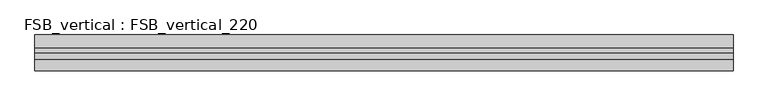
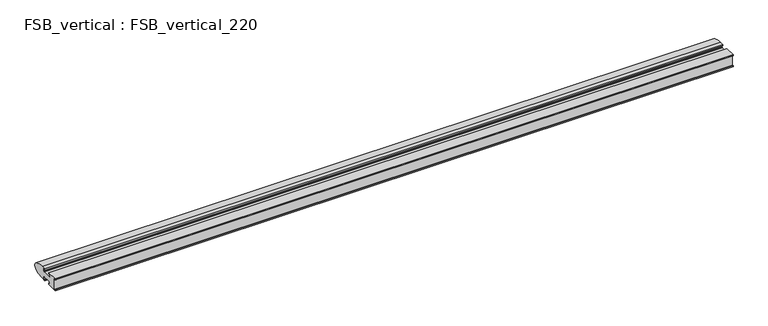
"""IFC4 building model written with IfcOpenShell, lengths in millimetres: proxy geometry, FSB_vertical : FSB_vertical_220."""

from ifc_helpers import new_model, si_unit, point, frame, origin, place, context, project, spatial, circle_curve, ellipse_curve, trimmed, source, transform, mapped, element, save
from ifc_brep_helpers import plane_surface, cylinder_surface, extruded_surface, advanced_brep


def fsb_vertical_fsb_vertical_220_ec3d4603(model_context):
    return source(origin(), model_context, "Body", "AdvancedBrep", [
        advanced_brep(
        [(-1500.0, 35.515, 2027.4994269), (-1500.0, 35.515, 1972.4999025), (-1500.0, 14.55, 1972.4999025), (-1500.0, 14.55, 1977.6), (-1500.0, 16.55, 1977.6), (-1500.0, 16.55, 1975.4999025), (-1500.0, 17.55, 1974.4999025), (-1500.0, 22.175, 1974.4999025), (-1500.0, 22.175, 1985.95), (-1500.0, 18.5225, 1985.95), (-1500.0, 18.5225, 1989.0), (-1500.0, -18.5225, 1989.0), (-1500.0, -18.5225, 1985.95), (-1500.0, -22.175, 1985.95), (-1500.0, -22.175, 1974.6999025), (-1500.0, -17.55, 1974.6999025), (-1500.0, -16.55, 1975.6999025), (-1500.0, -16.55, 1977.6), (-1500.0, -14.55, 1977.6), (-1500.0, -14.55, 1972.4999025), (-1500.0, -63.0727525, 1972.4999025), (-1500.0, -63.0727525, 1975.9999025), (-1500.0, -62.0727525, 1976.9999025), (-1500.0, -60.5727525, 1976.9999025), (-1500.0, -60.5727525, 1974.9999025), (-1500.0, -57.5727525, 1974.9999025), (-1500.0, -57.5727525, 2025.0000975), (-1500.0, -60.5727525, 2025.0000975), (-1500.0, -60.5727525, 2023.0000975), (-1500.0, -62.0727525, 2023.0000975), (-1500.0, -63.0727525, 2024.0000975), (-1500.0, -63.0727525, 2027.5000975), (-1500.0, -14.55, 2027.5000975), (-1500.0, -14.55, 2022.4), (-1500.0, -16.55, 2022.4), (-1500.0, -16.55, 2024.3000975), (-1500.0, -17.55, 2025.3000975), (-1500.0, -22.175, 2025.3000975), (-1500.0, -22.175, 2014.05), (-1500.0, -18.5225, 2014.05), (-1500.0, -18.5225, 2011.0), (-1500.0, 18.5225, 2011.0), (-1500.0, 18.5225, 2014.05), (-1500.0, 22.175, 2014.05), (-1500.0, 22.175, 2025.5000975), (-1500.0, 17.55, 2025.5000975), (-1500.0, 16.55, 2024.5000975), (-1500.0, 16.55, 2022.4), (-1500.0, 14.55, 2022.4), (-1500.0, 14.55, 2027.4994269), (1500.0, 35.515, 2027.4994269), (1500.0, 14.55, 2027.4994269), (1500.0, 14.55, 2022.4), (1500.0, 16.55, 2022.4), (1500.0, 16.55, 2024.5000975), (1500.0, 17.55, 2025.5000975), (1500.0, 22.175, 2025.5000975), (1500.0, 22.175, 2014.05), (1500.0, 18.5225, 2014.05), (1500.0, 18.5225, 2011.0), (1500.0, -18.5225, 2011.0), (1500.0, -18.5225, 2014.05), (1500.0, -22.175, 2014.05), (1500.0, -22.175, 2025.3000975), (1500.0, -17.55, 2025.3000975), (1500.0, -16.55, 2024.3000975), (1500.0, -16.55, 2022.4), (1500.0, -14.55, 2022.4), (1500.0, -14.55, 2027.5000975), (1500.0, -63.0727525, 2027.5000975), (1500.0, -63.0727525, 2024.0000975), (1500.0, -62.0727525, 2023.0000975), (1500.0, -60.5727525, 2023.0000975), (1500.0, -60.5727525, 2025.0000975), (1500.0, -57.5727525, 2025.0000975), (1500.0, -57.5727525, 1974.9999025), (1500.0, -60.5727525, 1974.9999025), (1500.0, -60.5727525, 1976.9999025), (1500.0, -62.0727525, 1976.9999025), (1500.0, -63.0727525, 1975.9999025), (1500.0, -63.0727525, 1972.4999025), (1500.0, -14.55, 1972.4999025), (1500.0, -14.55, 1977.6), (1500.0, -16.55, 1977.6), (1500.0, -16.55, 1975.6999025), (1500.0, -17.55, 1974.6999025), (1500.0, -22.175, 1974.6999025), (1500.0, -22.175, 1985.95), (1500.0, -18.5225, 1985.95), (1500.0, -18.5225, 1989.0), (1500.0, 18.5225, 1989.0), (1500.0, 18.5225, 1985.95), (1500.0, 22.175, 1985.95), (1500.0, 22.175, 1974.4999025), (1500.0, 17.55, 1974.4999025), (1500.0, 16.55, 1975.4999025), (1500.0, 16.55, 1977.6), (1500.0, 14.55, 1977.6), (1500.0, 14.55, 1972.4999025), (1500.0, 35.515, 1972.4999025)],
        [
            (0, 1, ellipse_curve(frame((-1500.0, 35.515, 1999.9996647), z_axis=(-1.0, 0.0, 0.0), x_axis=(0.0, 1.0, 0.0)), 56.4122475, 27.4997622)),
            (1, 2),
            (2, 3),
            (3, 4),
            (4, 5),
            (5, 6),
            (6, 7),
            (7, 8),
            (8, 9),
            (9, 10),
            (10, 11),
            (11, 12),
            (12, 13),
            (13, 14),
            (14, 15),
            (15, 16),
            (16, 17),
            (17, 18),
            (18, 19),
            (19, 20),
            (20, 21),
            (21, 22, circle_curve(frame((-1500.0, -62.0727525, 1975.9999025), z_axis=(-1.0, 0.0, 0.0), x_axis=(0.0, 0.0, 1.0)), 1.0)),
            (22, 23),
            (23, 24),
            (24, 25),
            (25, 26),
            (26, 27),
            (27, 28),
            (28, 29),
            (29, 30, circle_curve(frame((-1500.0, -62.0727525, 2024.0000975), z_axis=(-1.0, 0.0, 0.0), x_axis=(0.0, -1.0, 0.0)), 1.0)),
            (30, 31),
            (31, 32),
            (32, 33),
            (33, 34),
            (34, 35),
            (35, 36),
            (36, 37),
            (37, 38),
            (38, 39),
            (39, 40),
            (40, 41),
            (41, 42),
            (42, 43),
            (43, 44),
            (44, 45),
            (45, 46),
            (46, 47),
            (47, 48),
            (48, 49),
            (49, 0),
            (50, 51),
            (51, 52),
            (52, 53),
            (53, 54),
            (54, 55),
            (55, 56),
            (56, 57),
            (57, 58),
            (58, 59),
            (59, 60),
            (60, 61),
            (61, 62),
            (62, 63),
            (63, 64),
            (64, 65),
            (65, 66),
            (66, 67),
            (67, 68),
            (68, 69),
            (69, 70),
            (70, 71, circle_curve(frame((1500.0, -62.0727525, 2024.0000975), z_axis=(1.0, 0.0, 0.0), x_axis=(0.0, -1.0, 0.0)), 1.0)),
            (71, 72),
            (72, 73),
            (73, 74),
            (74, 75),
            (75, 76),
            (76, 77),
            (77, 78),
            (78, 79, circle_curve(frame((1500.0, -62.0727525, 1975.9999025), z_axis=(1.0, 0.0, 0.0), x_axis=(0.0, 0.0, 1.0)), 1.0)),
            (79, 80),
            (80, 81),
            (81, 82),
            (82, 83),
            (83, 84),
            (84, 85),
            (85, 86),
            (86, 87),
            (87, 88),
            (88, 89),
            (89, 90),
            (90, 91),
            (91, 92),
            (92, 93),
            (93, 94),
            (94, 95),
            (95, 96),
            (96, 97),
            (97, 98),
            (98, 99),
            (99, 50, ellipse_curve(frame((1500.0, 35.515, 1999.9996647), z_axis=(1.0, 0.0, 0.0), x_axis=(0.0, 1.0, 0.0)), 56.4122475, 27.4997622)),
            (0, 50),
            (99, 1),
            (98, 2),
            (97, 3),
            (96, 4),
            (95, 5),
            (94, 6),
            (93, 7),
            (92, 8),
            (91, 9),
            (90, 10),
            (89, 11),
            (88, 12),
            (87, 13),
            (86, 14),
            (85, 15),
            (84, 16),
            (83, 17),
            (82, 18),
            (81, 19),
            (80, 20),
            (79, 21),
            (78, 22),
            (77, 23),
            (76, 24),
            (75, 25),
            (74, 26),
            (73, 27),
            (72, 28),
            (71, 29),
            (70, 30),
            (69, 31),
            (68, 32),
            (67, 33),
            (66, 34),
            (65, 35),
            (64, 36),
            (63, 37),
            (62, 38),
            (61, 39),
            (60, 40),
            (59, 41),
            (58, 42),
            (57, 43),
            (56, 44),
            (55, 45),
            (54, 46),
            (53, 47),
            (52, 48),
            (51, 49),
        ],
        [
            plane_surface(frame((-1500.0, 0.0, 2000.0), z_axis=(-1.0, 0.0, 0.0), x_axis=(0.0, -1.0, 0.0))),
            plane_surface(frame((1500.0, 0.0, 2000.0), z_axis=(1.0, 0.0, 0.0), x_axis=(0.0, -1.0, 0.0))),
            extruded_surface(trimmed(ellipse_curve(frame((1500.0, 35.515, 1999.9996647), z_axis=(-1.0, 0.0, 0.0), x_axis=(0.0, 1.0, 0.0)), 56.4122475, 27.4997622), [point((1500.0, 35.515, 2027.4994269))], [point((1500.0, 35.515, 1972.4999025))], True, "CARTESIAN"), (-3000.0, 0.0, 0.0), 3000.0),
            plane_surface(frame((-1500.0, 35.515, 1972.4999025), z_axis=(0.0, 0.0, -1.0), x_axis=(1.0, 0.0, 0.0))),
            plane_surface(frame((-1500.0, 14.55, 1972.4999025), z_axis=(0.0, -1.0, 0.0), x_axis=(1.0, 0.0, 0.0))),
            plane_surface(frame((-1500.0, 14.55, 1977.6), z_axis=(0.0, 0.0, 1.0), x_axis=(1.0, 0.0, 0.0))),
            plane_surface(frame((-1500.0, 16.55, 1977.6), z_axis=(0.0, 1.0, 0.0), x_axis=(1.0, 0.0, 0.0))),
            plane_surface(frame((-1500.0, 16.55, 1975.4999025), z_axis=(0.0, 0.707106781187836, 0.707106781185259), x_axis=(1.0, 0.0, 0.0))),
            plane_surface(frame((-1500.0, 17.55, 1974.4999025), z_axis=(0.0, 0.0, 1.0), x_axis=(1.0, 0.0, 0.0))),
            plane_surface(frame((-1500.0, 22.175, 1974.4999025), z_axis=(0.0, -1.0, 0.0), x_axis=(1.0, 0.0, 0.0))),
            plane_surface(frame((-1500.0, 22.175, 1985.95), z_axis=(0.0, 0.0, -1.0), x_axis=(1.0, 0.0, 0.0))),
            plane_surface(frame((-1500.0, 18.5225, 1985.95), z_axis=(0.0, -1.0, 0.0), x_axis=(1.0, 0.0, 0.0))),
            plane_surface(frame((-1500.0, 18.5225, 1989.0), z_axis=(0.0, 0.0, -1.0), x_axis=(1.0, 0.0, 0.0))),
            plane_surface(frame((-1500.0, -18.5225, 1989.0), z_axis=(0.0, 1.0, 0.0), x_axis=(1.0, 0.0, 0.0))),
            plane_surface(frame((-1500.0, -18.5225, 1985.95), z_axis=(0.0, 0.0, -1.0), x_axis=(1.0, 0.0, 0.0))),
            plane_surface(frame((-1500.0, -22.175, 1985.95), z_axis=(0.0, 1.0, 0.0), x_axis=(1.0, 0.0, 0.0))),
            plane_surface(frame((-1500.0, -22.175, 1974.6999025), z_axis=(0.0, 0.0, 1.0), x_axis=(1.0, 0.0, 0.0))),
            plane_surface(frame((-1500.0, -17.55, 1974.6999025), z_axis=(0.0, -0.7071067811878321, 0.7071067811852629), x_axis=(1.0, 0.0, 0.0))),
            plane_surface(frame((-1500.0, -16.55, 1975.6999025), z_axis=(0.0, -1.0, 0.0), x_axis=(1.0, 0.0, 0.0))),
            plane_surface(frame((-1500.0, -16.55, 1977.6), z_axis=(0.0, 0.0, 1.0), x_axis=(1.0, 0.0, 0.0))),
            plane_surface(frame((-1500.0, -14.55, 1977.6), z_axis=(0.0, 1.0, 0.0), x_axis=(1.0, 0.0, 0.0))),
            plane_surface(frame((-1500.0, -14.55, 1972.4999025), z_axis=(0.0, 0.0, -1.0), x_axis=(1.0, 0.0, 0.0))),
            plane_surface(frame((-1500.0, -63.0727525, 1972.4999025), z_axis=(0.0, -1.0, 0.0), x_axis=(1.0, 0.0, 0.0))),
            cylinder_surface(frame((-1500.0, -62.0727525, 1975.9999025), z_axis=(-1.0, 0.0, 0.0), x_axis=(0.0, 0.0, 1.0)), 1.0),
            plane_surface(frame((-1500.0, -62.0727525, 1976.9999025), z_axis=(0.0, 0.0, 1.0), x_axis=(1.0, 0.0, 0.0))),
            plane_surface(frame((-1500.0, -60.5727525, 1976.9999025), z_axis=(0.0, 1.0, 0.0), x_axis=(1.0, 0.0, 0.0))),
            plane_surface(frame((-1500.0, -60.5727525, 1974.9999025), z_axis=(0.0, 0.0, 1.0), x_axis=(1.0, 0.0, 0.0))),
            plane_surface(frame((-1500.0, -57.5727525, 1974.9999025), z_axis=(0.0, -1.0, 0.0), x_axis=(1.0, 0.0, 0.0))),
            plane_surface(frame((-1500.0, -57.5727525, 2025.0000975), z_axis=(0.0, 0.0, -1.0), x_axis=(1.0, 0.0, 0.0))),
            plane_surface(frame((-1500.0, -60.5727525, 2025.0000975), z_axis=(0.0, 1.0, 0.0), x_axis=(1.0, 0.0, 0.0))),
            plane_surface(frame((-1500.0, -60.5727525, 2023.0000975), z_axis=(0.0, 0.0, -1.0), x_axis=(1.0, 0.0, 0.0))),
            cylinder_surface(frame((-1500.0, -62.0727525, 2024.0000975), z_axis=(-1.0, 0.0, 0.0), x_axis=(0.0, -1.0, 0.0)), 1.0),
            plane_surface(frame((-1500.0, -63.0727525, 2024.0000975), z_axis=(0.0, -1.0, 0.0), x_axis=(1.0, 0.0, 0.0))),
            plane_surface(frame((-1500.0, -63.0727525, 2027.5000975), z_axis=(0.0, 0.0, 1.0), x_axis=(1.0, 0.0, 0.0))),
            plane_surface(frame((-1500.0, -14.55, 2027.5000975), z_axis=(0.0, 1.0, 0.0), x_axis=(1.0, 0.0, 0.0))),
            plane_surface(frame((-1500.0, -14.55, 2022.4), z_axis=(0.0, 0.0, -1.0), x_axis=(1.0, 0.0, 0.0))),
            plane_surface(frame((-1500.0, -16.55, 2022.4), z_axis=(0.0, -1.0, 0.0), x_axis=(1.0, 0.0, 0.0))),
            plane_surface(frame((-1500.0, -16.55, 2024.3000975), z_axis=(0.0, -0.7071067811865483, -0.7071067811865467), x_axis=(1.0, 0.0, 0.0))),
            plane_surface(frame((-1500.0, -17.55, 2025.3000975), z_axis=(0.0, 0.0, -1.0), x_axis=(1.0, 0.0, 0.0))),
            plane_surface(frame((-1500.0, -22.175, 2025.3000975), z_axis=(0.0, 1.0, 0.0), x_axis=(1.0, 0.0, 0.0))),
            plane_surface(frame((-1500.0, -22.175, 2014.05), z_axis=(0.0, 0.0, 1.0), x_axis=(1.0, 0.0, 0.0))),
            plane_surface(frame((-1500.0, -18.5225, 2014.05), z_axis=(0.0, 1.0, 0.0), x_axis=(1.0, 0.0, 0.0))),
            plane_surface(frame((-1500.0, -18.5225, 2011.0), z_axis=(0.0, 0.0, 1.0), x_axis=(1.0, 0.0, 0.0))),
            plane_surface(frame((-1500.0, 18.5225, 2011.0), z_axis=(0.0, -1.0, 0.0), x_axis=(1.0, 0.0, 0.0))),
            plane_surface(frame((-1500.0, 18.5225, 2014.05), z_axis=(0.0, 0.0, 1.0), x_axis=(1.0, 0.0, 0.0))),
            plane_surface(frame((-1500.0, 22.175, 2014.05), z_axis=(0.0, -1.0, 0.0), x_axis=(1.0, 0.0, 0.0))),
            plane_surface(frame((-1500.0, 22.175, 2025.5000975), z_axis=(0.0, 0.0, -1.0), x_axis=(1.0, 0.0, 0.0))),
            plane_surface(frame((-1500.0, 17.55, 2025.5000975), z_axis=(0.0, 0.7071067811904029, -0.7071067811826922), x_axis=(1.0, 0.0, 0.0))),
            plane_surface(frame((-1500.0, 16.55, 2024.5000975), z_axis=(0.0, 1.0, 0.0), x_axis=(1.0, 0.0, 0.0))),
            plane_surface(frame((-1500.0, 16.55, 2022.4), z_axis=(0.0, 0.0, -1.0), x_axis=(1.0, 0.0, 0.0))),
            plane_surface(frame((-1500.0, 14.55, 2022.4), z_axis=(0.0, -1.0, 0.0), x_axis=(1.0, 0.0, 0.0))),
            plane_surface(frame((-1500.0, 14.55, 2027.4994269), z_axis=(0.0, 0.0, 1.0), x_axis=(1.0, 0.0, 0.0))),
        ],
        [
            (0, [[1, 2, 3, 4, 5, 6, 7, 8, 9, 10, 11, 12, 13, 14, 15, 16, 17, 18, 19, 20, 21, 22, 23, 24, 25, 26, 27, 28, 29, 30, 31, 32, 33, 34, 35, 36, 37, 38, 39, 40, 41, 42, 43, 44, 45, 46, 47, 48, 49, 50]]),
            (1, [[51, 52, 53, 54, 55, 56, 57, 58, 59, 60, 61, 62, 63, 64, 65, 66, 67, 68, 69, 70, 71, 72, 73, 74, 75, 76, 77, 78, 79, 80, 81, 82, 83, 84, 85, 86, 87, 88, 89, 90, 91, 92, 93, 94, 95, 96, 97, 98, 99, 100]]),
            (2, [[-1, 101, -100, 102]]),
            (3, [[-2, -102, -99, 103]]),
            (4, [[-3, -103, -98, 104]]),
            (5, [[-4, -104, -97, 105]]),
            (6, [[-5, -105, -96, 106]]),
            (7, [[-6, -106, -95, 107]]),
            (8, [[-7, -107, -94, 108]]),
            (9, [[-8, -108, -93, 109]]),
            (10, [[-9, -109, -92, 110]]),
            (11, [[-10, -110, -91, 111]]),
            (12, [[-11, -111, -90, 112]]),
            (13, [[-12, -112, -89, 113]]),
            (14, [[-13, -113, -88, 114]]),
            (15, [[-14, -114, -87, 115]]),
            (16, [[-15, -115, -86, 116]]),
            (17, [[-16, -116, -85, 117]]),
            (18, [[-17, -117, -84, 118]]),
            (19, [[-18, -118, -83, 119]]),
            (20, [[-19, -119, -82, 120]]),
            (21, [[-20, -120, -81, 121]]),
            (22, [[-21, -121, -80, 122]]),
            (23, [[-22, -122, -79, 123]]),
            (24, [[-23, -123, -78, 124]]),
            (25, [[-24, -124, -77, 125]]),
            (26, [[-25, -125, -76, 126]]),
            (27, [[-26, -126, -75, 127]]),
            (28, [[-27, -127, -74, 128]]),
            (29, [[-28, -128, -73, 129]]),
            (30, [[-29, -129, -72, 130]]),
            (31, [[-30, -130, -71, 131]]),
            (32, [[-31, -131, -70, 132]]),
            (33, [[-32, -132, -69, 133]]),
            (34, [[-33, -133, -68, 134]]),
            (35, [[-34, -134, -67, 135]]),
            (36, [[-35, -135, -66, 136]]),
            (37, [[-36, -136, -65, 137]]),
            (38, [[-37, -137, -64, 138]]),
            (39, [[-38, -138, -63, 139]]),
            (40, [[-39, -139, -62, 140]]),
            (41, [[-40, -140, -61, 141]]),
            (42, [[-41, -141, -60, 142]]),
            (43, [[-42, -142, -59, 143]]),
            (44, [[-43, -143, -58, 144]]),
            (45, [[-44, -144, -57, 145]]),
            (46, [[-45, -145, -56, 146]]),
            (47, [[-46, -146, -55, 147]]),
            (48, [[-47, -147, -54, 148]]),
            (49, [[-48, -148, -53, 149]]),
            (50, [[-49, -149, -52, 150]]),
            (51, [[-50, -150, -51, -101]]),
        ],
    ),
    ])


if __name__ == "__main__":
    model = new_model("IFC4")
    model_context = context("Model", 3, world=origin())
    ifc_project = project(units=[si_unit("LENGTHUNIT", "METRE", prefix="MILLI")], contexts=[model_context])
    site = spatial("IfcSite", under=ifc_project)
    building = spatial("IfcBuilding", under=site)
    placement = place(None, origin())
    fsb_vertical_fsb_vertical_220_shape = fsb_vertical_fsb_vertical_220_ec3d4603(model_context)
    element("IfcBuildingElementProxy", 1, Name="FSB_vertical : FSB_vertical_220", ObjectType="FSB_vertical : FSB_vertical_220", at=placement, inside=building, context=model_context, shape_type="MappedRepresentation", body=[
        mapped(fsb_vertical_fsb_vertical_220_shape, transform((0.0, 0.0, 0.0), x_axis=(1.0, 0.0, 0.0), y_axis=(0.0, 1.0, 0.0), z_axis=(0.0, 0.0, 1.0))),
    ])
    save(model, "model.ifc")
